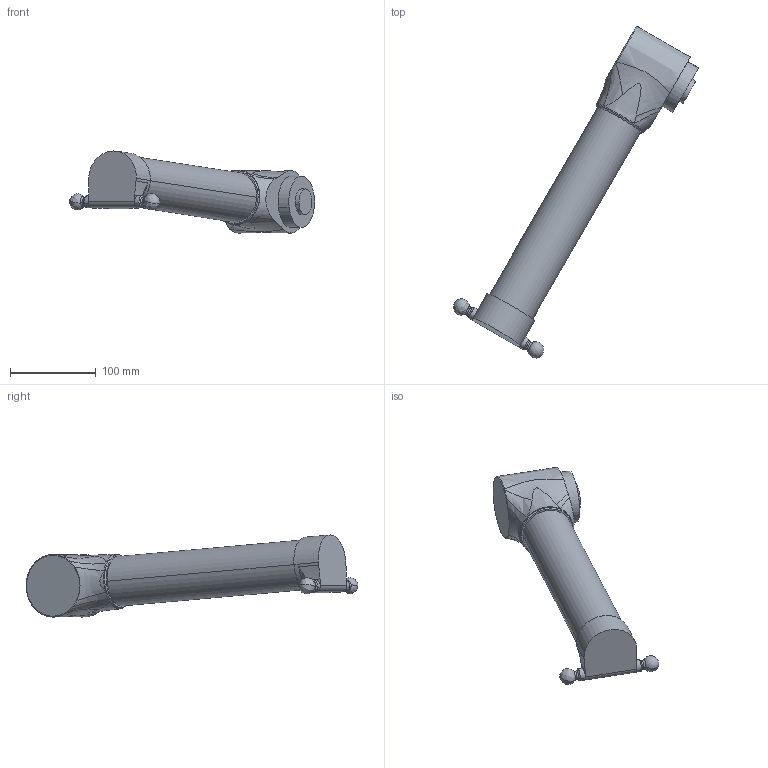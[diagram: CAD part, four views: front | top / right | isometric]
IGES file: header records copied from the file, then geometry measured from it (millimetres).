
Start section: SolidWorks IGES file using analytic representation for surfaces
Global section: file name: C:\Users\SELUHAA\OneDrive - ABB\Work items\609433\IRB360_8-1130-STD-4D_rev03\IRB360_8-1130-STD-4D_rev03_IGS_J\IRB360_8-1130-STD-4D_rev03_UA2_CAD.igs; native system: SolidWorks 2022; preprocessor: SolidWorks 2022; author: SELUHAA; date: 250115.102723; units: millimetre
Bounding box: 285.95 x 387.33 x 95.8 mm (x, y, z)
Volume: 1285470.9 mm3; surface area: 93663.8 mm2
Topology: 1 solids, 1 shells, 71 faces, 168 edges, 101 vertices
Faces by surface type: revolution 44, bspline 17, plane 10
